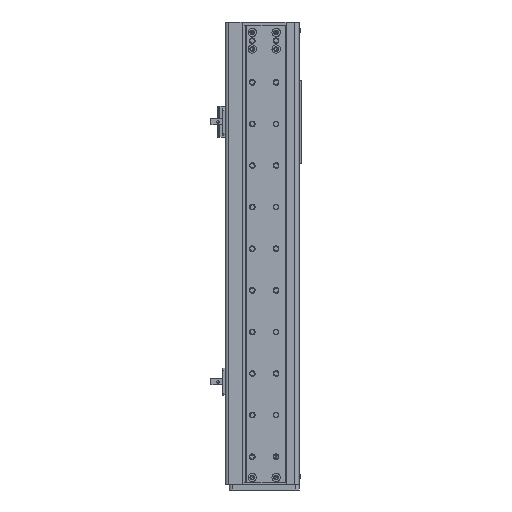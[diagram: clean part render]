
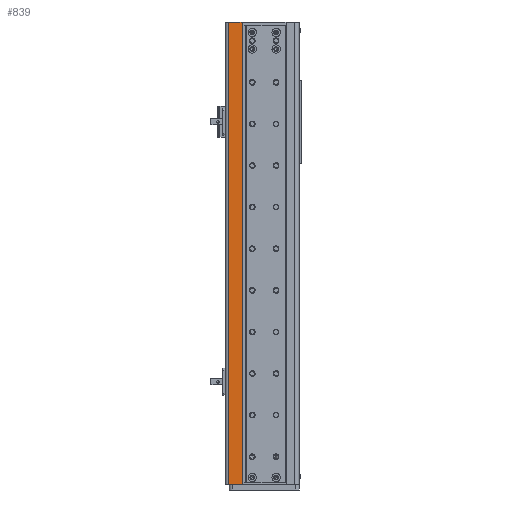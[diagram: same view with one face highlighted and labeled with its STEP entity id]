
A CAD part, front view. The second image highlights one B-rep face of the part: STEP entity #839.
In plain terms, the highlighted planar face has unit normal (0, -1, 0).
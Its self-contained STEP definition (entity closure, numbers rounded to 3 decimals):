
#839 = ADVANCED_FACE ( 'NONE', ( #12850 ), #26835, .F. ) ;
#3132 = CARTESIAN_POINT ( 'NONE',  ( 12.3, 0., 0. ) ) ;
#6413 = CARTESIAN_POINT ( 'NONE',  ( -1., 0., 0. ) ) ;
#7522 = DIRECTION ( 'NONE',  ( 0., 0., 1. ) ) ;
#7553 = EDGE_LOOP ( 'NONE', ( #45697, #48656, #23538, #23941 ) ) ;
#8173 = CARTESIAN_POINT ( 'NONE',  ( 12.3, 0., 445. ) ) ;
#8235 = VECTOR ( 'NONE', #7522, 1000. ) ;
#9795 = VECTOR ( 'NONE', #45504, 1000. ) ;
#11609 = EDGE_CURVE ( 'NONE', #38920, #39042, #14255, .T. ) ;
#12850 = FACE_OUTER_BOUND ( 'NONE', #7553, .T. ) ;
#12993 = VECTOR ( 'NONE', #40462, 1000. ) ;
#14255 = LINE ( 'NONE', #40615, #12993 ) ;
#19324 = VECTOR ( 'NONE', #47675, 1000. ) ;
#21356 = LINE ( 'NONE', #45561, #9795 ) ;
#23538 = ORIENTED_EDGE ( 'NONE', *, *, #11609, .T. ) ;
#23941 = ORIENTED_EDGE ( 'NONE', *, *, #41318, .T. ) ;
#25145 = CARTESIAN_POINT ( 'NONE',  ( 12.5, 0., 445. ) ) ;
#26061 = CARTESIAN_POINT ( 'NONE',  ( 12.5, 0., 445. ) ) ;
#26733 = DIRECTION ( 'NONE',  ( -1., 0., 0. ) ) ;
#26835 = PLANE ( 'NONE',  #40455 ) ;
#26891 = DIRECTION ( 'NONE',  ( 0., 1., 0. ) ) ;
#28545 = LINE ( 'NONE', #25145, #19324 ) ;
#28927 = CARTESIAN_POINT ( 'NONE',  ( -1., 0., 445. ) ) ;
#32549 = VERTEX_POINT ( 'NONE', #38773 ) ;
#38773 = CARTESIAN_POINT ( 'NONE',  ( 12.3, 0., 445. ) ) ;
#38920 = VERTEX_POINT ( 'NONE', #6413 ) ;
#39042 = VERTEX_POINT ( 'NONE', #3132 ) ;
#39120 = LINE ( 'NONE', #8173, #8235 ) ;
#40010 = EDGE_CURVE ( 'NONE', #49506, #38920, #21356, .T. ) ;
#40455 = AXIS2_PLACEMENT_3D ( 'NONE', #26061, #26891, #26733 ) ;
#40462 = DIRECTION ( 'NONE',  ( 1., 0., 0. ) ) ;
#40615 = CARTESIAN_POINT ( 'NONE',  ( 12.5, 0., 0. ) ) ;
#41318 = EDGE_CURVE ( 'NONE', #39042, #32549, #39120, .T. ) ;
#45504 = DIRECTION ( 'NONE',  ( 0., 0., -1. ) ) ;
#45561 = CARTESIAN_POINT ( 'NONE',  ( -1., 0., 0. ) ) ;
#45697 = ORIENTED_EDGE ( 'NONE', *, *, #46649, .F. ) ;
#46649 = EDGE_CURVE ( 'NONE', #49506, #32549, #28545, .T. ) ;
#47675 = DIRECTION ( 'NONE',  ( 1., 0., 0. ) ) ;
#48656 = ORIENTED_EDGE ( 'NONE', *, *, #40010, .T. ) ;
#49506 = VERTEX_POINT ( 'NONE', #28927 ) ;
